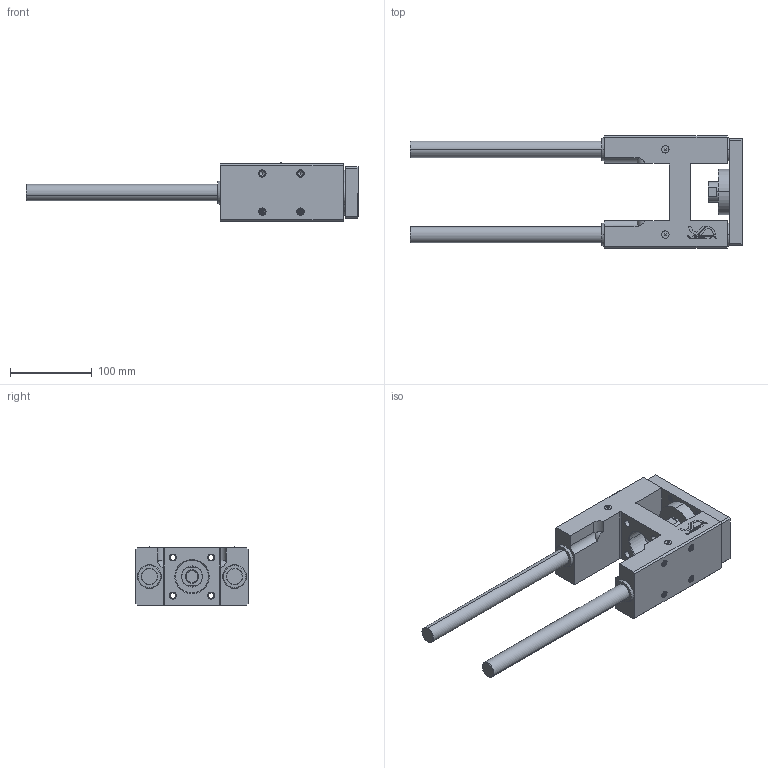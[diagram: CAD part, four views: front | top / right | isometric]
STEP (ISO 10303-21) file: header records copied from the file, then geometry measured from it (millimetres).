
FILE_DESCRIPTION (( 'STEP AP203' ), '1' );
FILE_NAME ('GLH50.0200.STEP', '2005-10-26T07:44:28', ( 'Vesta Automation srl' ), ( 'Vesta Automation srl' ), 'SwSTEP 2.0', 'SolidWorks 2005187', '' );
FILE_SCHEMA (( 'CONFIG_CONTROL_DESIGN' ));
Length unit declared in the file: millimetre
Products named in the file (4): GUIDE STEMS-GLH50_STROKE 0200; PLATE-GLH50; GLH50.0200; SUPPORTING BODY-GLH50
Assembly tree (4 placements, depth 2):
  GLH50.0200
    PLATE-GLH50
    GUIDE STEMS-GLH50_STROKE 0200  x2
    SUPPORTING BODY-GLH50
Bounding box: 405 x 137 x 71.4 mm (x, y, z)
Volume: 1062996.7 mm3; surface area: 194257.8 mm2
Topology: 4 solids, 6 shells, 1242 faces, 2700 edges, 1492 vertices
Faces by surface type: cone 922, plane 172, cylinder 146, sphere 2
Entity records: 33522 total; most frequent: DIRECTION 6276, CARTESIAN_POINT 5695, ORIENTED_EDGE 5340, EDGE_CURVE 2670, AXIS2_PLACEMENT_3D 2433, VERTEX_POINT 1484, LINE 1410, VECTOR 1410
